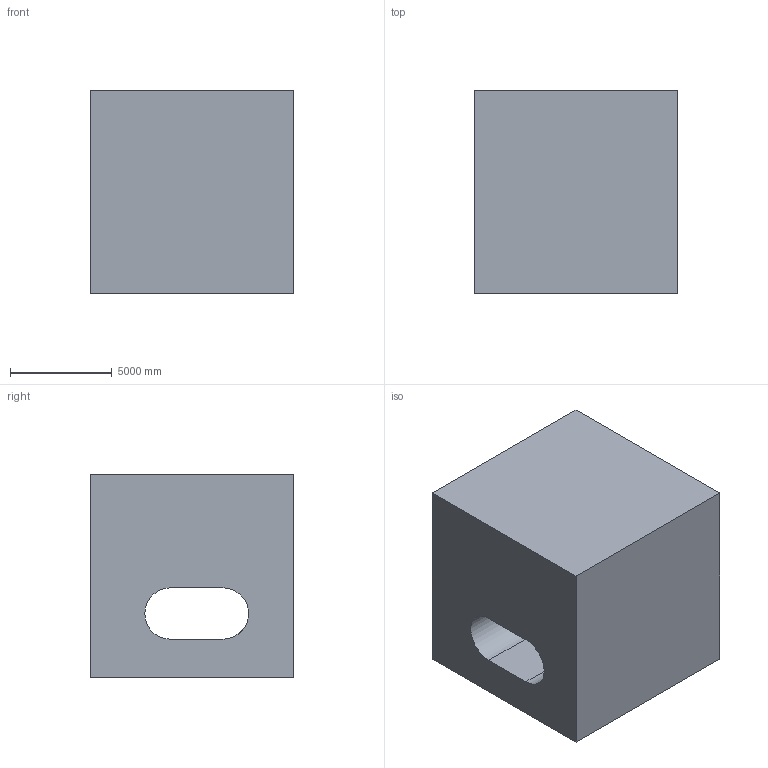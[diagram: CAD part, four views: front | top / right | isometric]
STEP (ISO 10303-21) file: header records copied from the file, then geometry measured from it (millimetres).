
FILE_DESCRIPTION (( 'STEP AP203' ), '1' );
FILE_NAME ('190.STEP', '2022-07-28T13:51:23', ( 'user' ), ( '' ), 'SwSTEP 2.0', 'SolidWorks 2021', '' );
FILE_SCHEMA (( 'CONFIG_CONTROL_DESIGN' ));
Length unit declared in the file: centimetre
Products named in the file (1): 190
Bounding box: 10000 x 10000 x 10000 mm (x, y, z)
Volume: 867015828878.8 mm3; surface area: 711191640.7 mm2
Topology: 1 solids, 1 shells, 17 faces, 48 edges, 32 vertices
Faces by surface type: plane 15, cylinder 2
Entity records: 631 total; most frequent: CARTESIAN_POINT 113, ORIENTED_EDGE 96, DIRECTION 83, EDGE_CURVE 48, VECTOR 39, LINE 39, VERTEX_POINT 32, AXIS2_PLACEMENT_3D 22
